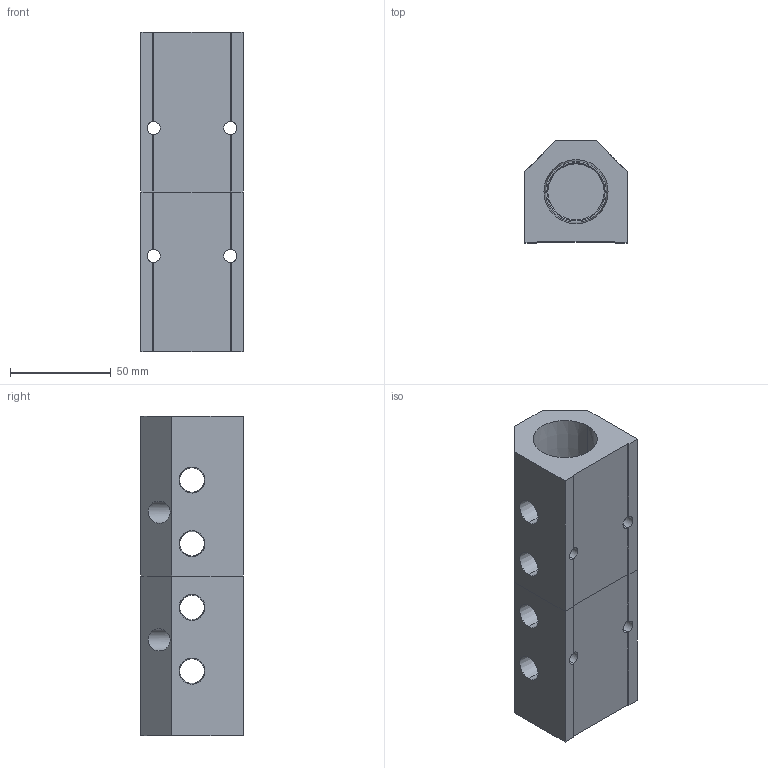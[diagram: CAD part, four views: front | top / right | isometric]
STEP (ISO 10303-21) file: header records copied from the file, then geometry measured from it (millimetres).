
FILE_DESCRIPTION (( 'STEP AP214' ), '1' );
FILE_NAME ('ALM4ACE-N4N16-159RB.STEP', '2023-11-02T06:10:14', ( '' ), ( '' ), 'SwSTEP 2.0', 'SolidWorks 2020', '' );
FILE_SCHEMA (( 'AUTOMOTIVE_DESIGN' ));
Length unit declared in the file: millimetre
Products named in the file (1): ALM4ACE-N4N16-159RB
Bounding box: 50.8 x 50.8 x 159 mm (x, y, z)
Volume: 240888.3 mm3; surface area: 59048.6 mm2
Topology: 2 solids, 2 shells, 360 faces, 946 edges, 620 vertices
Faces by surface type: plane 252, bspline 52, cone 32, cylinder 24
Entity records: 18720 total; most frequent: CARTESIAN_POINT 6803, ORIENTED_EDGE 1892, DIRECTION 1492, EDGE_CURVE 946, VECTOR 730, LINE 730, VERTEX_POINT 620, EDGE_LOOP 422
